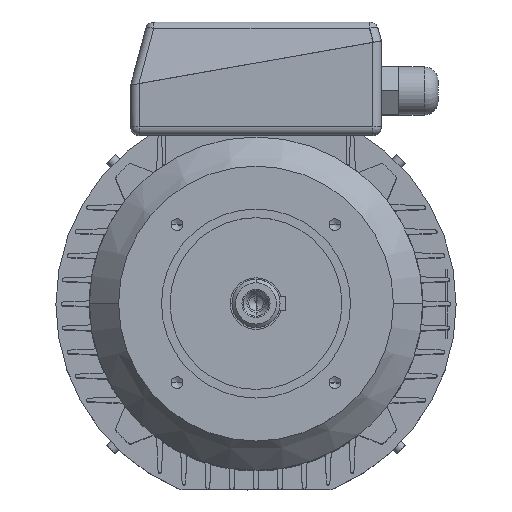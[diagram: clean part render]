
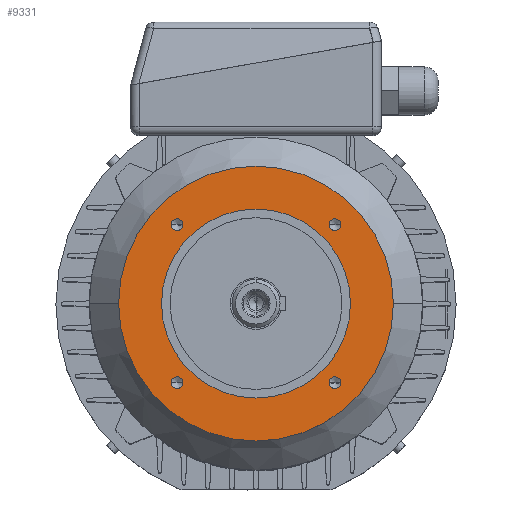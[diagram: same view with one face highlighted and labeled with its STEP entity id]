
A CAD part, top view. The second image highlights one B-rep face of the part: STEP entity #9331.
In plain terms, the highlighted planar face has unit normal (0, 0, 1).
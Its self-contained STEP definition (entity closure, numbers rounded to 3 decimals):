
#348 = EDGE_CURVE ( 'NONE', #8421, #1685, #10313, .T. ) ;
#553 = CARTESIAN_POINT ( 'NONE',  ( 49.362, -45.962, 51. ) ) ;
#675 = ORIENTED_EDGE ( 'NONE', *, *, #348, .F. ) ;
#792 = CARTESIAN_POINT ( 'NONE',  ( -42.562, -45.962, 51. ) ) ;
#905 = CIRCLE ( 'NONE', #906, 3.4 ) ;
#906 = AXIS2_PLACEMENT_3D ( 'NONE', #913, #914, #915 ) ;
#913 = CARTESIAN_POINT ( 'NONE',  ( -45.962, -45.962, 51. ) ) ;
#914 = DIRECTION ( 'NONE',  ( 0., 0., 1. ) ) ;
#915 = DIRECTION ( 'NONE',  ( 1., 0., 0. ) ) ;
#1279 = VERTEX_POINT ( 'NONE', #10763 ) ;
#1425 = CARTESIAN_POINT ( 'NONE',  ( -55., 0., 51. ) ) ;
#1522 = CARTESIAN_POINT ( 'NONE',  ( 55., 0., 51. ) ) ;
#1534 = CIRCLE ( 'NONE', #1535, 3.4 ) ;
#1535 = AXIS2_PLACEMENT_3D ( 'NONE', #1536, #1537, #1538 ) ;
#1536 = CARTESIAN_POINT ( 'NONE',  ( 45.962, -45.962, 51. ) ) ;
#1537 = DIRECTION ( 'NONE',  ( 0., 0., 1. ) ) ;
#1538 = DIRECTION ( 'NONE',  ( 1., 0., 0. ) ) ;
#1685 = VERTEX_POINT ( 'NONE', #11005 ) ;
#1723 = CARTESIAN_POINT ( 'NONE',  ( 49.362, 45.962, 51. ) ) ;
#1772 = ORIENTED_EDGE ( 'NONE', *, *, #8460, .F. ) ;
#1817 = CIRCLE ( 'NONE', #1818, 3.4 ) ;
#1818 = AXIS2_PLACEMENT_3D ( 'NONE', #1819, #1820, #1821 ) ;
#1819 = CARTESIAN_POINT ( 'NONE',  ( 45.962, 45.962, 51. ) ) ;
#1820 = DIRECTION ( 'NONE',  ( 0., 0., 1. ) ) ;
#1821 = DIRECTION ( 'NONE',  ( 1., 0., 0. ) ) ;
#2069 = EDGE_LOOP ( 'NONE', ( #11727, #11143 ) ) ;
#2349 = CIRCLE ( 'NONE', #2350, 55. ) ;
#2350 = AXIS2_PLACEMENT_3D ( 'NONE', #2351, #2352, #2353 ) ;
#2351 = CARTESIAN_POINT ( 'NONE',  ( 0., 0., 51. ) ) ;
#2352 = DIRECTION ( 'NONE',  ( 0., 0., 1. ) ) ;
#2353 = DIRECTION ( 'NONE',  ( 1., 0., 0. ) ) ;
#2575 = CARTESIAN_POINT ( 'NONE',  ( -49.362, 45.962, 51. ) ) ;
#2611 = VERTEX_POINT ( 'NONE', #11485 ) ;
#3183 = CIRCLE ( 'NONE', #3184, 3.4 ) ;
#3184 = AXIS2_PLACEMENT_3D ( 'NONE', #3185, #3186, #3187 ) ;
#3185 = CARTESIAN_POINT ( 'NONE',  ( -45.962, -45.962, 51. ) ) ;
#3186 = DIRECTION ( 'NONE',  ( 0., 0., 1. ) ) ;
#3187 = DIRECTION ( 'NONE',  ( 1., 0., 0. ) ) ;
#3212 = ORIENTED_EDGE ( 'NONE', *, *, #5343, .F. ) ;
#3325 = CIRCLE ( 'NONE', #3326, 80. ) ;
#3326 = AXIS2_PLACEMENT_3D ( 'NONE', #3327, #3328, #3329 ) ;
#3327 = CARTESIAN_POINT ( 'NONE',  ( 0., 0., 51. ) ) ;
#3328 = DIRECTION ( 'NONE',  ( 0., 0., 1. ) ) ;
#3329 = DIRECTION ( 'NONE',  ( 1., 0., 0. ) ) ;
#3894 = FACE_BOUND ( 'NONE', #8038, .T. ) ;
#3895 = FACE_OUTER_BOUND ( 'NONE', #4001, .T. ) ;
#3896 = FACE_BOUND ( 'NONE', #2069, .T. ) ;
#3897 = FACE_BOUND ( 'NONE', #10049, .T. ) ;
#3898 = FACE_BOUND ( 'NONE', #7931, .T. ) ;
#3899 = FACE_BOUND ( 'NONE', #12362, .T. ) ;
#3900 = PLANE ( 'NONE',  #3901 ) ;
#3901 = AXIS2_PLACEMENT_3D ( 'NONE', #3902, #3903, #3904 ) ;
#3902 = CARTESIAN_POINT ( 'NONE',  ( 0., 80., 51. ) ) ;
#3903 = DIRECTION ( 'NONE',  ( 0., 0., -1. ) ) ;
#3904 = DIRECTION ( 'NONE',  ( -1., 0., 0. ) ) ;
#3944 = CIRCLE ( 'NONE', #3945, 3.4 ) ;
#3945 = AXIS2_PLACEMENT_3D ( 'NONE', #3946, #3947, #3948 ) ;
#3946 = CARTESIAN_POINT ( 'NONE',  ( -45.962, 45.962, 51. ) ) ;
#3947 = DIRECTION ( 'NONE',  ( 0., 0., 1. ) ) ;
#3948 = DIRECTION ( 'NONE',  ( 1., 0., 0. ) ) ;
#4001 = EDGE_LOOP ( 'NONE', ( #8948, #9100 ) ) ;
#4223 = CIRCLE ( 'NONE', #4224, 80. ) ;
#4224 = AXIS2_PLACEMENT_3D ( 'NONE', #4225, #4226, #4227 ) ;
#4225 = CARTESIAN_POINT ( 'NONE',  ( 0., 0., 51. ) ) ;
#4226 = DIRECTION ( 'NONE',  ( 0., 0., 1. ) ) ;
#4227 = DIRECTION ( 'NONE',  ( 1., 0., 0. ) ) ;
#4336 = CARTESIAN_POINT ( 'NONE',  ( -49.362, -45.962, 51. ) ) ;
#5084 = VERTEX_POINT ( 'NONE', #12745 ) ;
#5343 = EDGE_CURVE ( 'NONE', #8721, #5084, #12869, .T. ) ;
#5484 = ORIENTED_EDGE ( 'NONE', *, *, #11642, .F. ) ;
#5508 = CARTESIAN_POINT ( 'NONE',  ( 80., 0., 51. ) ) ;
#5527 = CIRCLE ( 'NONE', #5528, 55. ) ;
#5528 = AXIS2_PLACEMENT_3D ( 'NONE', #5529, #5530, #5531 ) ;
#5529 = CARTESIAN_POINT ( 'NONE',  ( 0., 0., 51. ) ) ;
#5530 = DIRECTION ( 'NONE',  ( 0., 0., 1. ) ) ;
#5531 = DIRECTION ( 'NONE',  ( 1., 0., 0. ) ) ;
#6546 = CIRCLE ( 'NONE', #6547, 3.4 ) ;
#6547 = AXIS2_PLACEMENT_3D ( 'NONE', #6548, #6549, #6550 ) ;
#6548 = CARTESIAN_POINT ( 'NONE',  ( 45.962, -45.962, 51. ) ) ;
#6549 = DIRECTION ( 'NONE',  ( 0., 0., 1. ) ) ;
#6550 = DIRECTION ( 'NONE',  ( 1., 0., 0. ) ) ;
#7202 = ORIENTED_EDGE ( 'NONE', *, *, #8342, .F. ) ;
#7692 = VERTEX_POINT ( 'NONE', #553 ) ;
#7931 = EDGE_LOOP ( 'NONE', ( #7202, #5484 ) ) ;
#7979 = ORIENTED_EDGE ( 'NONE', *, *, #8055, .F. ) ;
#8003 = VERTEX_POINT ( 'NONE', #792 ) ;
#8038 = EDGE_LOOP ( 'NONE', ( #675, #1772 ) ) ;
#8055 = EDGE_CURVE ( 'NONE', #9514, #8003, #905, .T. ) ;
#8272 = VERTEX_POINT ( 'NONE', #1425 ) ;
#8332 = VERTEX_POINT ( 'NONE', #1522 ) ;
#8342 = EDGE_CURVE ( 'NONE', #7692, #2611, #1534, .T. ) ;
#8421 = VERTEX_POINT ( 'NONE', #1723 ) ;
#8460 = EDGE_CURVE ( 'NONE', #1685, #8421, #1817, .T. ) ;
#8579 = ORIENTED_EDGE ( 'NONE', *, *, #8993, .F. ) ;
#8615 = EDGE_CURVE ( 'NONE', #8332, #8272, #2349, .T. ) ;
#8721 = VERTEX_POINT ( 'NONE', #2575 ) ;
#8948 = ORIENTED_EDGE ( 'NONE', *, *, #9469, .T. ) ;
#8993 = EDGE_CURVE ( 'NONE', #8003, #9514, #3183, .T. ) ;
#9064 = EDGE_CURVE ( 'NONE', #1279, #10048, #3325, .T. ) ;
#9100 = ORIENTED_EDGE ( 'NONE', *, *, #9064, .T. ) ;
#9331 = ADVANCED_FACE ( 'NONE', ( #3894, #3895, #3896, #3897, #3898, #3899 ), #3900, .F. ) ;
#9357 = EDGE_CURVE ( 'NONE', #5084, #8721, #3944, .T. ) ;
#9394 = ORIENTED_EDGE ( 'NONE', *, *, #9357, .F. ) ;
#9469 = EDGE_CURVE ( 'NONE', #10048, #1279, #4223, .T. ) ;
#9514 = VERTEX_POINT ( 'NONE', #4336 ) ;
#10048 = VERTEX_POINT ( 'NONE', #5508 ) ;
#10049 = EDGE_LOOP ( 'NONE', ( #8579, #7979 ) ) ;
#10057 = EDGE_CURVE ( 'NONE', #8272, #8332, #5527, .T. ) ;
#10313 = CIRCLE ( 'NONE', #10314, 3.4 ) ;
#10314 = AXIS2_PLACEMENT_3D ( 'NONE', #10315, #10316, #10317 ) ;
#10315 = CARTESIAN_POINT ( 'NONE',  ( 45.962, 45.962, 51. ) ) ;
#10316 = DIRECTION ( 'NONE',  ( 0., 0., 1. ) ) ;
#10317 = DIRECTION ( 'NONE',  ( 1., 0., 0. ) ) ;
#10763 = CARTESIAN_POINT ( 'NONE',  ( -80., 0., 51. ) ) ;
#11005 = CARTESIAN_POINT ( 'NONE',  ( 42.562, 45.962, 51. ) ) ;
#11143 = ORIENTED_EDGE ( 'NONE', *, *, #10057, .F. ) ;
#11485 = CARTESIAN_POINT ( 'NONE',  ( 42.562, -45.962, 51. ) ) ;
#11642 = EDGE_CURVE ( 'NONE', #2611, #7692, #6546, .T. ) ;
#11727 = ORIENTED_EDGE ( 'NONE', *, *, #8615, .F. ) ;
#12362 = EDGE_LOOP ( 'NONE', ( #9394, #3212 ) ) ;
#12745 = CARTESIAN_POINT ( 'NONE',  ( -42.562, 45.962, 51. ) ) ;
#12869 = CIRCLE ( 'NONE', #12870, 3.4 ) ;
#12870 = AXIS2_PLACEMENT_3D ( 'NONE', #12871, #12872, #12873 ) ;
#12871 = CARTESIAN_POINT ( 'NONE',  ( -45.962, 45.962, 51. ) ) ;
#12872 = DIRECTION ( 'NONE',  ( 0., 0., 1. ) ) ;
#12873 = DIRECTION ( 'NONE',  ( 1., 0., 0. ) ) ;
